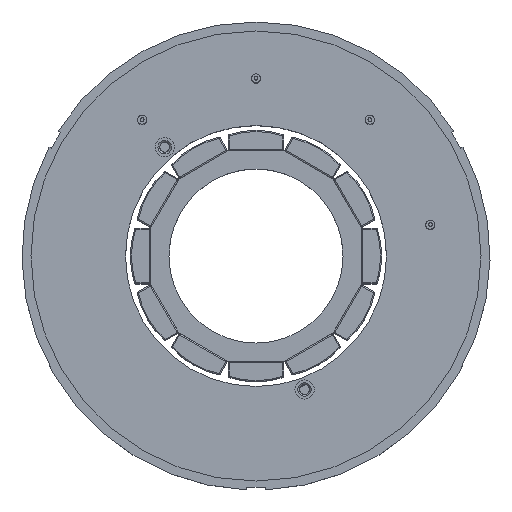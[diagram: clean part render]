
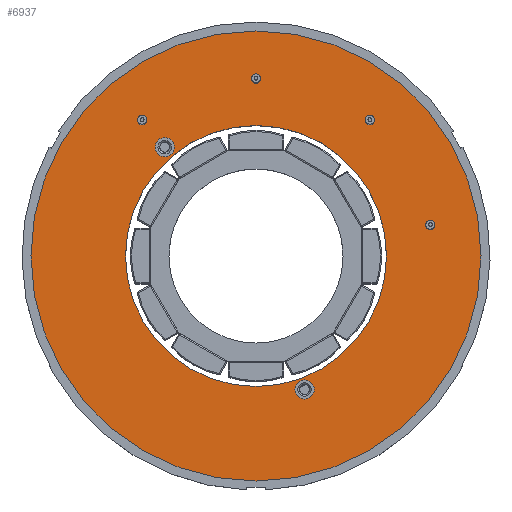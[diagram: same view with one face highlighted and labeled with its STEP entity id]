
A CAD part, top view. The second image highlights one B-rep face of the part: STEP entity #6937.
In plain terms, the highlighted planar face has unit normal (0, 0, 1).
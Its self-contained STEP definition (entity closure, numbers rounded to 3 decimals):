
#1463=PLANE('',#7959);
#3128=ORIENTED_EDGE('',*,*,#4319,.T.);
#3129=ORIENTED_EDGE('',*,*,#4321,.T.);
#3130=ORIENTED_EDGE('',*,*,#4322,.T.);
#3131=ORIENTED_EDGE('',*,*,#4323,.T.);
#3132=ORIENTED_EDGE('',*,*,#4324,.T.);
#3133=ORIENTED_EDGE('',*,*,#4325,.T.);
#3134=ORIENTED_EDGE('',*,*,#4326,.T.);
#3135=ORIENTED_EDGE('',*,*,#4327,.F.);
#4319=EDGE_CURVE('',#5053,#5053,#5457,.T.);
#4321=EDGE_CURVE('',#5055,#5055,#5459,.T.);
#4322=EDGE_CURVE('',#5056,#5056,#5460,.T.);
#4323=EDGE_CURVE('',#5057,#5057,#5461,.T.);
#4324=EDGE_CURVE('',#5058,#5058,#5462,.T.);
#4325=EDGE_CURVE('',#5059,#5059,#5463,.T.);
#4326=EDGE_CURVE('',#5060,#5060,#5464,.T.);
#4327=EDGE_CURVE('',#5061,#5061,#5465,.T.);
#5053=VERTEX_POINT('',#14939);
#5055=VERTEX_POINT('',#14945);
#5056=VERTEX_POINT('',#14949);
#5057=VERTEX_POINT('',#14951);
#5058=VERTEX_POINT('',#14953);
#5059=VERTEX_POINT('',#14955);
#5060=VERTEX_POINT('',#14957);
#5061=VERTEX_POINT('',#14959);
#5457=CIRCLE('',#7953,1.6);
#5459=CIRCLE('',#7957,1.6);
#5460=CIRCLE('',#7960,0.5);
#5461=CIRCLE('',#7961,0.5);
#5462=CIRCLE('',#7962,0.5);
#5463=CIRCLE('',#7963,0.5);
#5464=CIRCLE('',#7964,21.75);
#5465=CIRCLE('',#7965,37.5);
#5911=EDGE_LOOP('',(#3128));
#5912=EDGE_LOOP('',(#3129));
#5913=EDGE_LOOP('',(#3130));
#5914=EDGE_LOOP('',(#3131));
#5915=EDGE_LOOP('',(#3132));
#5916=EDGE_LOOP('',(#3133));
#5917=EDGE_LOOP('',(#3134));
#5918=EDGE_LOOP('',(#3135));
#6388=FACE_BOUND('',#5911,.T.);
#6389=FACE_BOUND('',#5912,.T.);
#6390=FACE_BOUND('',#5913,.T.);
#6391=FACE_BOUND('',#5914,.T.);
#6392=FACE_BOUND('',#5915,.T.);
#6393=FACE_BOUND('',#5916,.T.);
#6394=FACE_BOUND('',#5917,.T.);
#6395=FACE_BOUND('',#5918,.T.);
#6937=ADVANCED_FACE('',(#6388,#6389,#6390,#6391,#6392,#6393,#6394,#6395),
#1463,.F.);
#7953=AXIS2_PLACEMENT_3D('',#14938,#9786,#9787);
#7957=AXIS2_PLACEMENT_3D('',#14944,#9794,#9795);
#7959=AXIS2_PLACEMENT_3D('',#14947,#9798,#9799);
#7960=AXIS2_PLACEMENT_3D('',#14948,#9800,#9801);
#7961=AXIS2_PLACEMENT_3D('',#14950,#9802,#9803);
#7962=AXIS2_PLACEMENT_3D('',#14952,#9804,#9805);
#7963=AXIS2_PLACEMENT_3D('',#14954,#9806,#9807);
#7964=AXIS2_PLACEMENT_3D('',#14956,#9808,#9809);
#7965=AXIS2_PLACEMENT_3D('',#14958,#9810,#9811);
#9786=DIRECTION('',(0.,0.,-1.));
#9787=DIRECTION('',(0.,-1.,0.));
#9794=DIRECTION('',(0.,0.,-1.));
#9795=DIRECTION('',(0.,-1.,0.));
#9798=DIRECTION('',(0.,0.,-1.));
#9799=DIRECTION('',(-1.,0.,0.));
#9800=DIRECTION('',(0.,0.,-1.));
#9801=DIRECTION('',(0.,-1.,0.));
#9802=DIRECTION('',(0.,0.,-1.));
#9803=DIRECTION('',(0.,-1.,0.));
#9804=DIRECTION('',(0.,0.,-1.));
#9805=DIRECTION('',(0.,-1.,0.));
#9806=DIRECTION('',(0.,0.,-1.));
#9807=DIRECTION('',(0.,-1.,0.));
#9808=DIRECTION('',(0.,0.,-1.));
#9809=DIRECTION('',(1.,0.,0.));
#9810=DIRECTION('',(0.,0.,-1.));
#9811=DIRECTION('',(1.,0.,0.));
#14938=CARTESIAN_POINT('',(8.096,-22.243,9.15));
#14939=CARTESIAN_POINT('',(8.096,-23.843,9.15));
#14944=CARTESIAN_POINT('',(-15.215,18.132,9.15));
#14945=CARTESIAN_POINT('',(-15.215,16.532,9.15));
#14947=CARTESIAN_POINT('',(0.,0.,9.15));
#14948=CARTESIAN_POINT('',(-18.962,22.598,9.15));
#14949=CARTESIAN_POINT('',(-18.962,22.098,9.15));
#14950=CARTESIAN_POINT('',(29.052,5.123,9.15));
#14951=CARTESIAN_POINT('',(29.052,4.623,9.15));
#14952=CARTESIAN_POINT('',(18.962,22.598,9.15));
#14953=CARTESIAN_POINT('',(18.962,22.098,9.15));
#14954=CARTESIAN_POINT('',(0.,29.5,9.15));
#14955=CARTESIAN_POINT('',(0.,29.,9.15));
#14956=CARTESIAN_POINT('',(0.,0.,9.15));
#14957=CARTESIAN_POINT('',(21.75,0.,9.15));
#14958=CARTESIAN_POINT('',(0.,0.,9.15));
#14959=CARTESIAN_POINT('',(37.5,0.,9.15));
